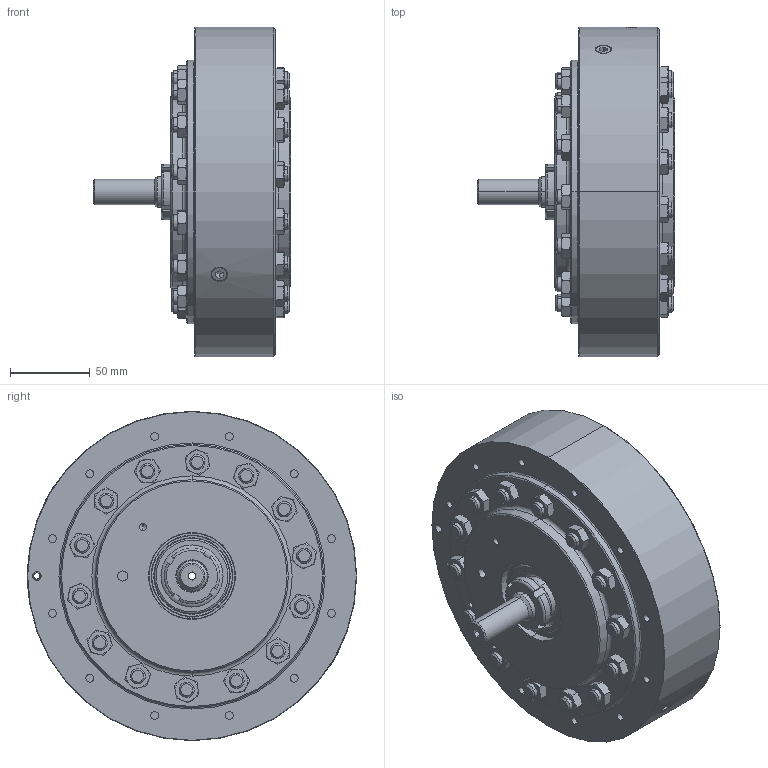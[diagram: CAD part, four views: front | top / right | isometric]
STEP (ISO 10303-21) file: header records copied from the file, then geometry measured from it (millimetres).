
FILE_DESCRIPTION (( 'STEP AP214' ), '1' );
FILE_NAME ('DN05RRRFTLS0000.STEP', '2019-10-30T17:01:50', ( '' ), ( '' ), 'SwSTEP 2.0', 'SolidWorks 2019', '' );
FILE_SCHEMA (( 'AUTOMOTIVE_DESIGN' ));
Length unit declared in the file: millimetre
Products named in the file (1): DN05RRRFTLS0000
Bounding box: 123.52 x 206.38 x 206.38 mm (x, y, z)
Surface area: 161169.1 mm2 (no closed solid volume)
Topology: 0 solids, 75 shells, 808 faces, 2056 edges, 1327 vertices
Faces by surface type: cone 320, plane 294, cylinder 154, bspline 22, torus 18
Entity records: 37374 total; most frequent: CARTESIAN_POINT 10018, DIRECTION 3806, ORIENTED_EDGE 3528, EDGE_CURVE 2054, AXIS2_PLACEMENT_3D 1622, VERTEX_POINT 1327, EDGE_LOOP 912, CIRCLE 835
